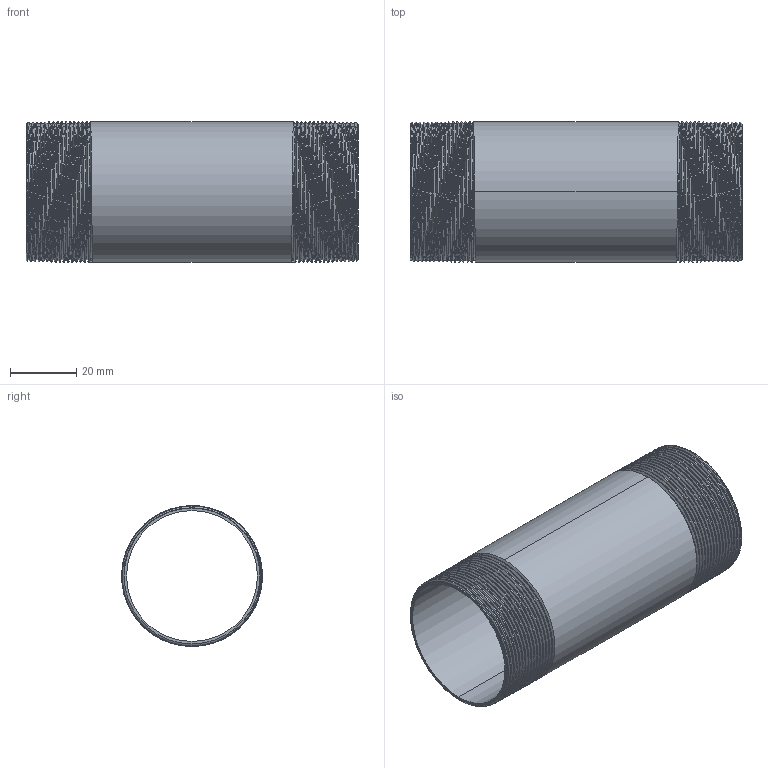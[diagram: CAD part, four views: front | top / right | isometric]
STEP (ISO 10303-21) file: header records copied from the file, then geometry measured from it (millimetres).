
FILE_DESCRIPTION (( 'STEP AP203' ), '1' );
FILE_NAME ('3D_R210_1 1-4x100_17185760.STEP', '2024-08-16T11:33:17', ( '' ), ( '' ), 'SwSTEP 2.0', 'SolidWorks 2024', '' );
FILE_SCHEMA (( 'CONFIG_CONTROL_DESIGN' ));
Length unit declared in the file: millimetre
Products named in the file (1): 3D_R210_1 1-4x100_17185760
Bounding box: 100 x 42.36 x 42.4 mm (x, y, z)
Volume: 17092.6 mm3; surface area: 28588.4 mm2
Topology: 1 solids, 1 shells, 82 faces, 232 edges, 152 vertices
Faces by surface type: cone 68, bspline 6, cylinder 4, plane 4
Entity records: 13957 total; most frequent: CARTESIAN_POINT 12055, ORIENTED_EDGE 464, DIRECTION 256, EDGE_CURVE 232, VERTEX_POINT 152, B_SPLINE_CURVE_WITH_KNOTS 134, AXIS2_PLACEMENT_3D 89, EDGE_LOOP 84
